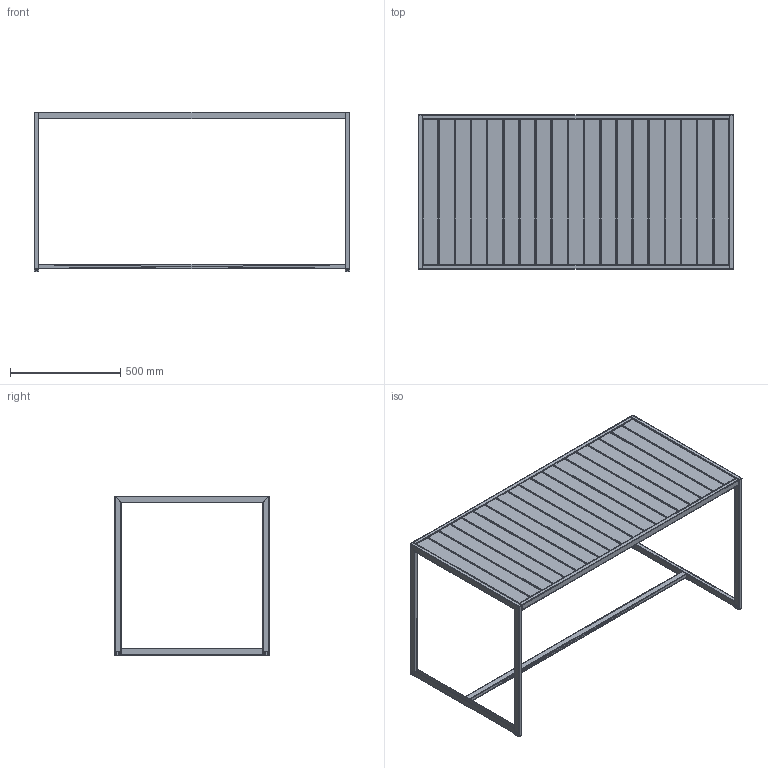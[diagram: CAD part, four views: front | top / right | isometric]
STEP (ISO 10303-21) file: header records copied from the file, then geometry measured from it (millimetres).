
FILE_DESCRIPTION(/* description */ (''),/* implementation_level */ '2;1');
FILE_NAME(/* name */ 'Garden_bistrotable4.stp',/* time_stamp */ '2023-04-06T12:33:29+02:00',/* author */ ('TorbjörnMalm'),/* organization */ (''),/* preprocessor_version */ 'ST-DEVELOPER v19.2',/* originating_system */ 'Autodesk Inventor 2023',/* authorisation */ '');
FILE_SCHEMA (('AUTOMOTIVE_DESIGN { 1 0 10303 214 3 1 1 }'));
Products named in the file (1): Garden_bistrotable4
Bounding box: 1430 x 700 x 724 mm (x, y, z)
Surface area: 3674749.9 mm2 (no closed solid volume)
Topology: 0 solids, 2964 shells, 3383 faces, 7980 edges, 4526 vertices
Faces by surface type: plane 3383
Entity records: 96061 total; most frequent: ORIENTED_EDGE 16249, CARTESIAN_POINT 15907, DIRECTION 14761, EDGE_CURVE 7994, LINE 7993, VECTOR 7993, VERTEX_POINT 4525, EDGE_LOOP 3509
